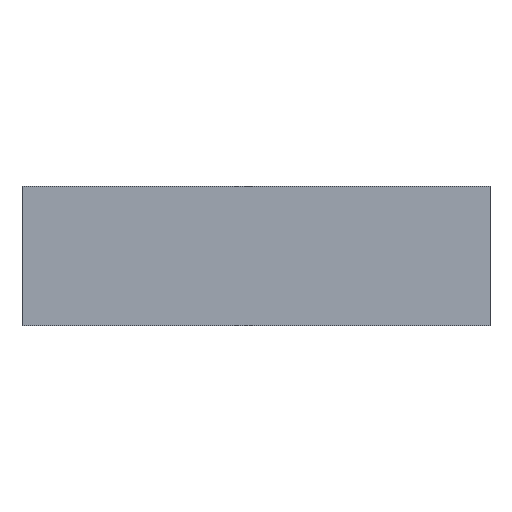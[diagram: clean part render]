
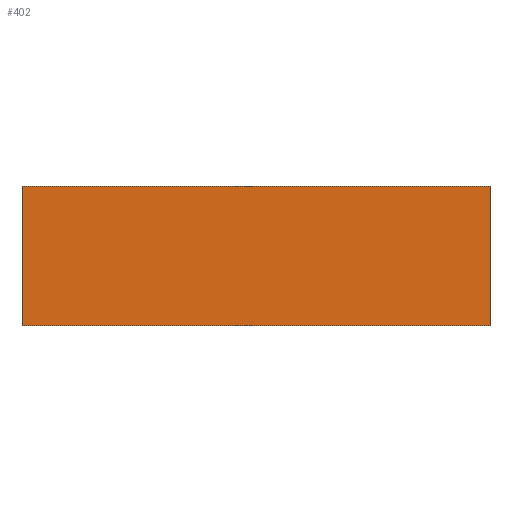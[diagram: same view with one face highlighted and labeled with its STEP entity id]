
A CAD part, front view. The second image highlights one B-rep face of the part: STEP entity #402.
In plain terms, the highlighted planar face has unit normal (0, -1, 0).
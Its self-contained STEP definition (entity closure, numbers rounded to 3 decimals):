
#32 = VECTOR ( 'NONE', #384, 1000. ) ;
#35 = LINE ( 'NONE', #342, #204 ) ;
#52 = EDGE_LOOP ( 'NONE', ( #103, #104, #117, #180 ) ) ;
#74 = LINE ( 'NONE', #485, #283 ) ;
#96 = LINE ( 'NONE', #343, #32 ) ;
#103 = ORIENTED_EDGE ( 'NONE', *, *, #529, .T. ) ;
#104 = ORIENTED_EDGE ( 'NONE', *, *, #560, .F. ) ;
#117 = ORIENTED_EDGE ( 'NONE', *, *, #534, .F. ) ;
#150 = FACE_OUTER_BOUND ( 'NONE', #52, .T. ) ;
#180 = ORIENTED_EDGE ( 'NONE', *, *, #592, .T. ) ;
#204 = VECTOR ( 'NONE', #341, 1000. ) ;
#242 = LINE ( 'NONE', #372, #251 ) ;
#251 = VECTOR ( 'NONE', #368, 1000. ) ;
#283 = VECTOR ( 'NONE', #479, 1000. ) ;
#341 = DIRECTION ( 'NONE',  ( 1., 0., 0. ) ) ;
#342 = CARTESIAN_POINT ( 'NONE',  ( -201., 0., 0. ) ) ;
#343 = CARTESIAN_POINT ( 'NONE',  ( -201., 0., 120. ) ) ;
#368 = DIRECTION ( 'NONE',  ( 0., 0., -1. ) ) ;
#372 = CARTESIAN_POINT ( 'NONE',  ( 201., 0., 120. ) ) ;
#384 = DIRECTION ( 'NONE',  ( 1., 0., 0. ) ) ;
#402 = ADVANCED_FACE ( 'NONE', ( #150 ), #664, .F. ) ;
#479 = DIRECTION ( 'NONE',  ( 0., 0., -1. ) ) ;
#485 = CARTESIAN_POINT ( 'NONE',  ( -201., 0., 120. ) ) ;
#506 = CARTESIAN_POINT ( 'NONE',  ( 201., 0., 0. ) ) ;
#509 = CARTESIAN_POINT ( 'NONE',  ( -201., 0., 0. ) ) ;
#514 = CARTESIAN_POINT ( 'NONE',  ( 201., 0., 120. ) ) ;
#529 = EDGE_CURVE ( 'NONE', #725, #724, #35, .T. ) ;
#534 = EDGE_CURVE ( 'NONE', #701, #730, #96, .T. ) ;
#554 = AXIS2_PLACEMENT_3D ( 'NONE', #742, #745, #694 ) ;
#560 = EDGE_CURVE ( 'NONE', #730, #724, #242, .T. ) ;
#592 = EDGE_CURVE ( 'NONE', #701, #725, #74, .T. ) ;
#654 = CARTESIAN_POINT ( 'NONE',  ( -201., 0., 120. ) ) ;
#664 = PLANE ( 'NONE',  #554 ) ;
#694 = DIRECTION ( 'NONE',  ( -1., 0., 0. ) ) ;
#701 = VERTEX_POINT ( 'NONE', #654 ) ;
#724 = VERTEX_POINT ( 'NONE', #506 ) ;
#725 = VERTEX_POINT ( 'NONE', #509 ) ;
#730 = VERTEX_POINT ( 'NONE', #514 ) ;
#742 = CARTESIAN_POINT ( 'NONE',  ( -201., 0., 120. ) ) ;
#745 = DIRECTION ( 'NONE',  ( 0., 1., 0. ) ) ;
